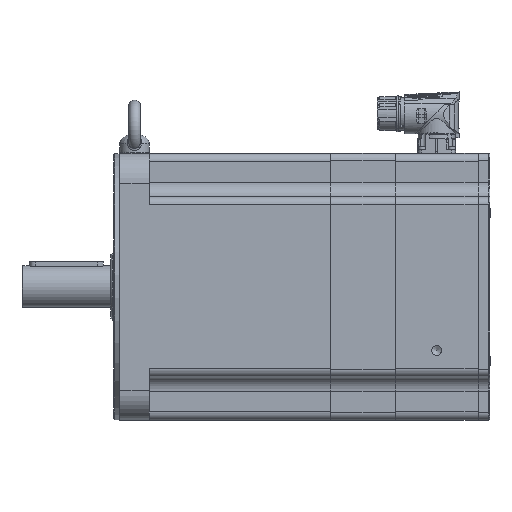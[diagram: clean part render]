
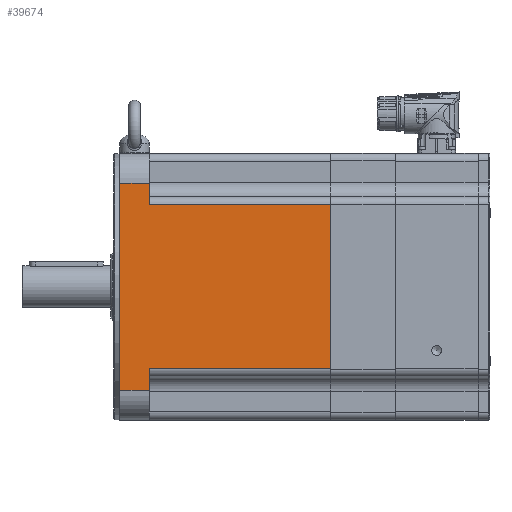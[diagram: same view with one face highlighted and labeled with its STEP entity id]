
A CAD part, left-side view. The second image highlights one B-rep face of the part: STEP entity #39674.
In plain terms, the highlighted planar face has unit normal (-1, 0, 0) as drawn and (1, 0, 0) by its records, which use the part's own axes.
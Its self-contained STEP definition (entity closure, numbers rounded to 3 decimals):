
#3064=PLANE('',#57374);
#15819=ORIENTED_EDGE('',*,*,#21572,.F.);
#15820=ORIENTED_EDGE('',*,*,#21640,.T.);
#15821=ORIENTED_EDGE('',*,*,#21608,.F.);
#15822=ORIENTED_EDGE('',*,*,#21641,.T.);
#15823=ORIENTED_EDGE('',*,*,#21642,.F.);
#15824=ORIENTED_EDGE('',*,*,#21643,.T.);
#15825=ORIENTED_EDGE('',*,*,#21628,.F.);
#15826=ORIENTED_EDGE('',*,*,#21644,.T.);
#21572=EDGE_CURVE('',#25565,#25566,#28084,.T.);
#21608=EDGE_CURVE('',#25601,#25602,#28098,.T.);
#21628=EDGE_CURVE('',#25621,#25622,#28105,.T.);
#21640=EDGE_CURVE('',#25565,#25602,#28113,.F.);
#21641=EDGE_CURVE('',#25601,#25629,#28114,.T.);
#21642=EDGE_CURVE('',#25630,#25629,#28115,.T.);
#21643=EDGE_CURVE('',#25630,#25622,#28116,.F.);
#21644=EDGE_CURVE('',#25621,#25566,#28117,.T.);
#25565=VERTEX_POINT('',#92162);
#25566=VERTEX_POINT('',#92164);
#25601=VERTEX_POINT('',#92243);
#25602=VERTEX_POINT('',#92245);
#25621=VERTEX_POINT('',#92290);
#25622=VERTEX_POINT('',#92291);
#25629=VERTEX_POINT('',#92315);
#25630=VERTEX_POINT('',#92317);
#28084=LINE('',#92163,#30553);
#28098=LINE('',#92244,#30567);
#28105=LINE('',#92289,#30574);
#28113=LINE('',#92313,#30582);
#28114=LINE('',#92314,#30583);
#28115=LINE('',#92316,#30584);
#28116=LINE('',#92318,#30585);
#28117=LINE('',#92319,#30586);
#30553=VECTOR('',#67999,1000.);
#30567=VECTOR('',#68075,1000.);
#30574=VECTOR('',#68120,1000.);
#30582=VECTOR('',#68144,1000.);
#30583=VECTOR('',#68145,1000.);
#30584=VECTOR('',#68146,1000.);
#30585=VECTOR('',#68147,1000.);
#30586=VECTOR('',#68148,1000.);
#33552=EDGE_LOOP('',(#15819,#15820,#15821,#15822,#15823,#15824,#15825,#15826));
#36627=FACE_BOUND('',#33552,.T.);
#39674=ADVANCED_FACE('',(#36627),#3064,.T.);
#57374=AXIS2_PLACEMENT_3D('',#92312,#68142,#68143);
#67999=DIRECTION('',(0.,0.,-1.));
#68075=DIRECTION('',(0.,0.,-1.));
#68120=DIRECTION('',(0.,0.,-1.));
#68142=DIRECTION('',(1.,0.,0.));
#68143=DIRECTION('',(0.,1.,0.));
#68144=DIRECTION('',(0.,1.,0.));
#68145=DIRECTION('',(0.,-1.,0.));
#68146=DIRECTION('',(0.,0.,1.));
#68147=DIRECTION('',(0.,-1.,0.));
#68148=DIRECTION('',(0.,1.,0.));
#92162=CARTESIAN_POINT('',(90.,143.8,55.2));
#92163=CARTESIAN_POINT('',(90.,143.8,-90.));
#92164=CARTESIAN_POINT('',(90.,143.8,-55.2));
#92243=CARTESIAN_POINT('',(90.,21.3,70.));
#92244=CARTESIAN_POINT('',(90.,21.3,-90.));
#92245=CARTESIAN_POINT('',(90.,21.3,55.2));
#92289=CARTESIAN_POINT('',(90.,21.3,-90.));
#92290=CARTESIAN_POINT('',(90.,21.3,-55.2));
#92291=CARTESIAN_POINT('',(90.,21.3,-70.));
#92312=CARTESIAN_POINT('',(90.,491.763,-90.));
#92313=CARTESIAN_POINT('',(90.,491.763,55.2));
#92314=CARTESIAN_POINT('',(90.,491.763,70.));
#92315=CARTESIAN_POINT('',(90.,1.3,70.));
#92316=CARTESIAN_POINT('',(90.,1.3,-90.));
#92317=CARTESIAN_POINT('',(90.,1.3,-70.));
#92318=CARTESIAN_POINT('',(90.,491.763,-70.));
#92319=CARTESIAN_POINT('',(90.,491.763,-55.2));
